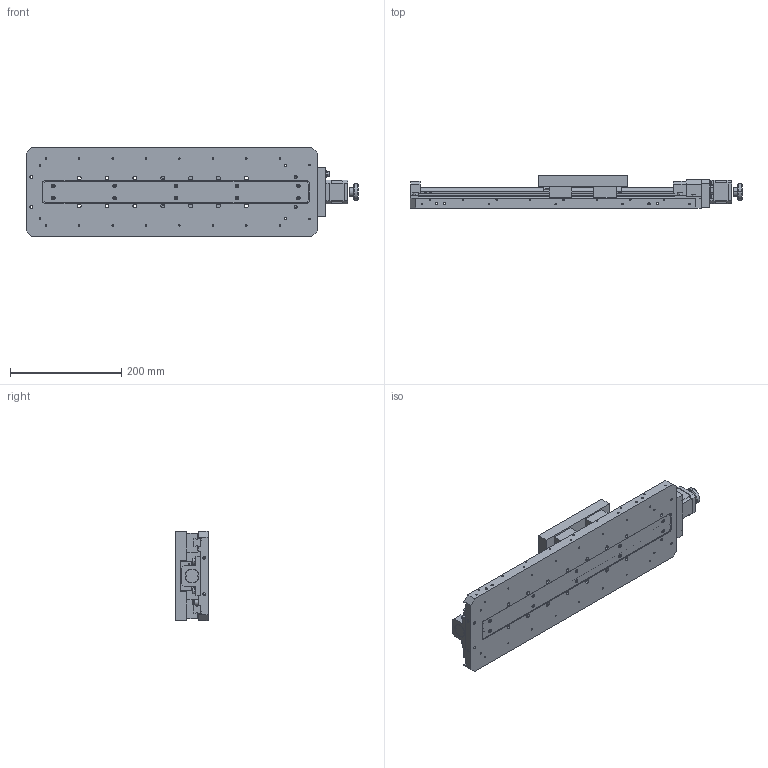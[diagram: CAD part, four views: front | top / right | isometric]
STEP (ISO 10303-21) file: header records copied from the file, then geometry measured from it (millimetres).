
FILE_DESCRIPTION (( 'STEP AP203' ), '1' );
FILE_NAME ('MOX-07-300.STEP', '2013-08-30T13:18:06', ( '' ), ( '' ), 'SwSTEP 2.0', 'SolidWorks 2010', '' );
FILE_SCHEMA (( 'CONFIG_CONTROL_DESIGN' ));
Products named in the file (1): MOX-07-300
Bounding box: 596 x 58 x 160 mm (x, y, z)
Surface area: 424010 mm2 (no closed solid volume)
Topology: 0 solids, 135 shells, 1358 faces, 4573 edges, 3290 vertices
Faces by surface type: plane 704, cylinder 488, bspline 102, cone 64
Entity records: 62549 total; most frequent: CARTESIAN_POINT 23692, DIRECTION 7782, ORIENTED_EDGE 7141, EDGE_CURVE 4534, VERTEX_POINT 3290, LINE 2714, VECTOR 2714, AXIS2_PLACEMENT_3D 2534
